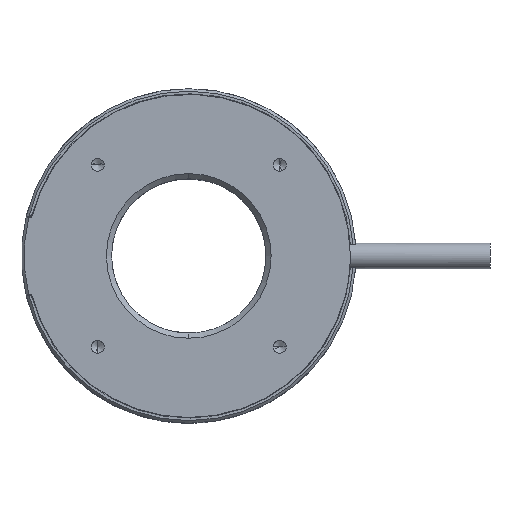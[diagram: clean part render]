
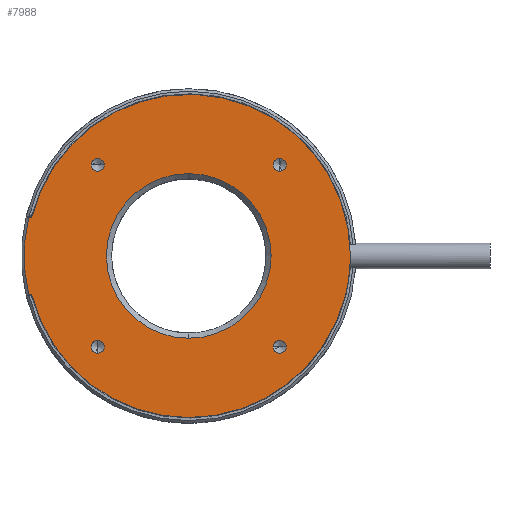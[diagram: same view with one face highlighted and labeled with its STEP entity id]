
A CAD part, top view. The second image highlights one B-rep face of the part: STEP entity #7988.
In plain terms, the highlighted planar face has unit normal (0, 0, 1).
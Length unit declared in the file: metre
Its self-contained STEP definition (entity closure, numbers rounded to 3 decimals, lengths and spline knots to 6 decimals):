
#1442=CARTESIAN_POINT('',(0.,0.,0.002));
#1443=DIRECTION('',(0.,0.,-1.));
#1444=DIRECTION('',(0.,1.,0.));
#1445=AXIS2_PLACEMENT_3D('',#1442,#1443,#1444);
#1447=CARTESIAN_POINT('',(0.,0.,0.002));
#1448=DIRECTION('',(0.,0.,-1.));
#1449=DIRECTION('',(0.,-1.,0.));
#1450=AXIS2_PLACEMENT_3D('',#1447,#1448,#1449);
#1452=CARTESIAN_POINT('',(0.017678,0.017678,0.002));
#1453=DIRECTION('',(0.,0.,-1.));
#1454=DIRECTION('',(0.,1.,0.));
#1455=AXIS2_PLACEMENT_3D('',#1452,#1453,#1454);
#1457=CARTESIAN_POINT('',(0.017678,0.017678,0.002));
#1458=DIRECTION('',(0.,0.,-1.));
#1459=DIRECTION('',(0.,-1.,0.));
#1460=AXIS2_PLACEMENT_3D('',#1457,#1458,#1459);
#1462=CARTESIAN_POINT('',(-0.017678,0.017678,0.002));
#1463=DIRECTION('',(0.,0.,-1.));
#1464=DIRECTION('',(-1.,0.,0.));
#1465=AXIS2_PLACEMENT_3D('',#1462,#1463,#1464);
#1467=CARTESIAN_POINT('',(-0.017678,0.017678,0.002));
#1468=DIRECTION('',(0.,0.,-1.));
#1469=DIRECTION('',(1.,0.,0.));
#1470=AXIS2_PLACEMENT_3D('',#1467,#1468,#1469);
#1472=CARTESIAN_POINT('',(-0.017678,-0.017678,0.002));
#1473=DIRECTION('',(0.,0.,-1.));
#1474=DIRECTION('',(0.,-1.,0.));
#1475=AXIS2_PLACEMENT_3D('',#1472,#1473,#1474);
#1477=CARTESIAN_POINT('',(-0.017678,-0.017678,0.002));
#1478=DIRECTION('',(0.,0.,-1.));
#1479=DIRECTION('',(0.,1.,0.));
#1480=AXIS2_PLACEMENT_3D('',#1477,#1478,#1479);
#1482=CARTESIAN_POINT('',(0.017678,-0.017678,0.002));
#1483=DIRECTION('',(0.,0.,-1.));
#1484=DIRECTION('',(1.,0.,0.));
#1485=AXIS2_PLACEMENT_3D('',#1482,#1483,#1484);
#1487=CARTESIAN_POINT('',(0.017678,-0.017678,0.002));
#1488=DIRECTION('',(0.,0.,-1.));
#1489=DIRECTION('',(-1.,0.,0.));
#1490=AXIS2_PLACEMENT_3D('',#1487,#1488,#1489);
#1492=CARTESIAN_POINT('',(-0.030881,0.008,0.002));
#1493=DIRECTION('',(0.,0.,-1.));
#1494=DIRECTION('',(0.968,-0.251,0.));
#1495=AXIS2_PLACEMENT_3D('',#1492,#1493,#1494);
#1497=CARTESIAN_POINT('',(0.,0.,0.002));
#1498=DIRECTION('',(0.,0.,1.));
#1499=DIRECTION('',(1.,0.,0.));
#1500=AXIS2_PLACEMENT_3D('',#1497,#1498,#1499);
#1502=CARTESIAN_POINT('',(0.,0.,0.002));
#1503=DIRECTION('',(0.,0.,1.));
#1504=DIRECTION('',(0.968,-0.251,0.));
#1505=AXIS2_PLACEMENT_3D('',#1502,#1503,#1504);
#1507=CARTESIAN_POINT('',(0.,0.,0.002));
#1508=DIRECTION('',(0.,0.,1.));
#1509=DIRECTION('',(-0.968,-0.251,0.));
#1510=AXIS2_PLACEMENT_3D('',#1507,#1508,#1509);
#1512=CARTESIAN_POINT('',(-0.030881,-0.008,0.002));
#1513=DIRECTION('',(0.,0.,-1.));
#1514=DIRECTION('',(0.,1.,0.));
#1515=AXIS2_PLACEMENT_3D('',#1512,#1513,#1514);
#1517=CARTESIAN_POINT('',(0.,0.,0.002));
#1518=DIRECTION('',(0.,0.,1.));
#1519=DIRECTION('',(-0.972,0.234,0.));
#1520=AXIS2_PLACEMENT_3D('',#1517,#1518,#1519);
#1634=DIRECTION('',(1.,0.,0.));
#1635=VECTOR('',#1634,0.000228);
#1636=CARTESIAN_POINT('',(-0.031109,0.0075,0.002));
#1637=LINE('',#1636,#1635);
#3930=DIRECTION('',(-1.,0.,0.));
#3931=VECTOR('',#3930,0.000228);
#3932=CARTESIAN_POINT('',(-0.030881,-0.0075,0.002));
#3933=LINE('',#3932,#3931);
#4768=CARTESIAN_POINT('',(-0.030397,-0.007875,0.002));
#4769=CARTESIAN_POINT('',(0.030397,-0.007875,0.002));
#4770=VERTEX_POINT('',#4768);
#4771=VERTEX_POINT('',#4769);
#4772=CARTESIAN_POINT('',(0.0314,0.,0.002));
#4773=VERTEX_POINT('',#4772);
#4774=CARTESIAN_POINT('',(-0.030397,0.007875,0.002));
#4775=VERTEX_POINT('',#4774);
#4776=CARTESIAN_POINT('',(-0.030881,-0.0075,0.002));
#4777=VERTEX_POINT('',#4776);
#4778=CARTESIAN_POINT('',(-0.031109,-0.0075,0.002));
#4779=VERTEX_POINT('',#4778);
#4780=CARTESIAN_POINT('',(-0.031109,0.0075,0.002));
#4781=VERTEX_POINT('',#4780);
#4782=CARTESIAN_POINT('',(-0.030881,0.0075,0.002));
#4783=VERTEX_POINT('',#4782);
#4784=CARTESIAN_POINT('',(0.016428,-0.017678,0.002));
#4785=CARTESIAN_POINT('',(0.018928,-0.017678,0.002));
#4786=VERTEX_POINT('',#4784);
#4787=VERTEX_POINT('',#4785);
#4788=CARTESIAN_POINT('',(-0.017678,-0.016428,0.002));
#4789=CARTESIAN_POINT('',(-0.017678,-0.018928,0.002));
#4790=VERTEX_POINT('',#4788);
#4791=VERTEX_POINT('',#4789);
#4792=CARTESIAN_POINT('',(-0.016428,0.017678,0.002));
#4793=CARTESIAN_POINT('',(-0.018928,0.017678,0.002));
#4794=VERTEX_POINT('',#4792);
#4795=VERTEX_POINT('',#4793);
#4796=CARTESIAN_POINT('',(0.017678,0.016428,0.002));
#4797=CARTESIAN_POINT('',(0.017678,0.018928,0.002));
#4798=VERTEX_POINT('',#4796);
#4799=VERTEX_POINT('',#4797);
#4800=CARTESIAN_POINT('',(0.,-0.016,0.002));
#4801=CARTESIAN_POINT('',(0.,0.016,0.002));
#4802=VERTEX_POINT('',#4800);
#4803=VERTEX_POINT('',#4801);
#7937=CARTESIAN_POINT('',(0.,0.,0.002));
#7938=DIRECTION('',(0.,0.,-1.));
#7939=DIRECTION('',(0.,1.,0.));
#7940=AXIS2_PLACEMENT_3D('',#7937,#7938,#7939);
#7941=PLANE('',#7940);
#7943=ORIENTED_EDGE('',*,*,#7942,.F.);
#7945=ORIENTED_EDGE('',*,*,#7944,.F.);
#7947=ORIENTED_EDGE('',*,*,#7946,.F.);
#7949=ORIENTED_EDGE('',*,*,#7948,.F.);
#7951=ORIENTED_EDGE('',*,*,#7950,.F.);
#7953=ORIENTED_EDGE('',*,*,#7952,.T.);
#7955=ORIENTED_EDGE('',*,*,#7954,.F.);
#7957=ORIENTED_EDGE('',*,*,#7956,.T.);
#7958=EDGE_LOOP('',(#7943,#7945,#7947,#7949,#7951,#7953,#7955,#7957));
#7959=FACE_OUTER_BOUND('',#7958,.F.);
#7961=ORIENTED_EDGE('',*,*,#7960,.F.);
#7963=ORIENTED_EDGE('',*,*,#7962,.F.);
#7964=EDGE_LOOP('',(#7961,#7963));
#7965=FACE_BOUND('',#7964,.F.);
#7967=ORIENTED_EDGE('',*,*,#7966,.F.);
#7969=ORIENTED_EDGE('',*,*,#7968,.F.);
#7970=EDGE_LOOP('',(#7967,#7969));
#7971=FACE_BOUND('',#7970,.F.);
#7973=ORIENTED_EDGE('',*,*,#7972,.F.);
#7975=ORIENTED_EDGE('',*,*,#7974,.F.);
#7976=EDGE_LOOP('',(#7973,#7975));
#7977=FACE_BOUND('',#7976,.F.);
#7979=ORIENTED_EDGE('',*,*,#7978,.F.);
#7981=ORIENTED_EDGE('',*,*,#7980,.F.);
#7982=EDGE_LOOP('',(#7979,#7981));
#7983=FACE_BOUND('',#7982,.F.);
#7984=ORIENTED_EDGE('',*,*,#7930,.F.);
#7985=ORIENTED_EDGE('',*,*,#7916,.F.);
#7986=EDGE_LOOP('',(#7984,#7985));
#7987=FACE_BOUND('',#7986,.F.);
#7988=ADVANCED_FACE('',(#7959,#7965,#7971,#7977,#7983,#7987),#7941,.F.);
#1446=CIRCLE('',#1445,0.016);
#1451=CIRCLE('',#1450,0.016);
#1456=CIRCLE('',#1455,0.00125);
#1461=CIRCLE('',#1460,0.00125);
#1466=CIRCLE('',#1465,0.00125);
#1471=CIRCLE('',#1470,0.00125);
#1476=CIRCLE('',#1475,0.00125);
#1481=CIRCLE('',#1480,0.00125);
#1486=CIRCLE('',#1485,0.00125);
#1491=CIRCLE('',#1490,0.00125);
#1496=CIRCLE('',#1495,0.0005);
#1501=CIRCLE('',#1500,0.0314);
#1506=CIRCLE('',#1505,0.0314);
#1511=CIRCLE('',#1510,0.0314);
#1516=CIRCLE('',#1515,0.0005);
#1521=CIRCLE('',#1520,0.032);
#7916=EDGE_CURVE('',#4802,#4803,#1451,.T.);
#7930=EDGE_CURVE('',#4803,#4802,#1446,.T.);
#7942=EDGE_CURVE('',#4775,#4783,#1496,.T.);
#7944=EDGE_CURVE('',#4773,#4775,#1501,.T.);
#7946=EDGE_CURVE('',#4771,#4773,#1506,.T.);
#7948=EDGE_CURVE('',#4770,#4771,#1511,.T.);
#7950=EDGE_CURVE('',#4777,#4770,#1516,.T.);
#7952=EDGE_CURVE('',#4777,#4779,#3933,.T.);
#7954=EDGE_CURVE('',#4781,#4779,#1521,.T.);
#7956=EDGE_CURVE('',#4781,#4783,#1637,.T.);
#7960=EDGE_CURVE('',#4799,#4798,#1456,.T.);
#7962=EDGE_CURVE('',#4798,#4799,#1461,.T.);
#7966=EDGE_CURVE('',#4795,#4794,#1466,.T.);
#7968=EDGE_CURVE('',#4794,#4795,#1471,.T.);
#7972=EDGE_CURVE('',#4791,#4790,#1476,.T.);
#7974=EDGE_CURVE('',#4790,#4791,#1481,.T.);
#7978=EDGE_CURVE('',#4787,#4786,#1486,.T.);
#7980=EDGE_CURVE('',#4786,#4787,#1491,.T.);
